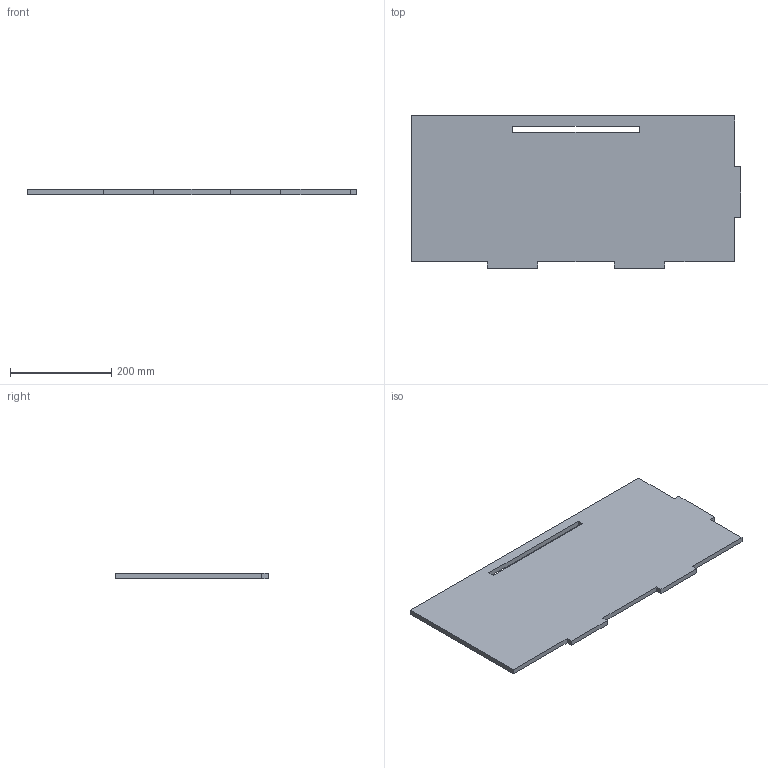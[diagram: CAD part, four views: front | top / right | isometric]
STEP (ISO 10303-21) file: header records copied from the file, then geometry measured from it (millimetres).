
FILE_DESCRIPTION (( 'STEP AP214' ), '1' );
FILE_NAME ('Part9.STEP', '2024-10-17T16:10:04', ( '' ), ( '' ), 'SwSTEP 2.0', 'SolidWorks 2020', '' );
FILE_SCHEMA (( 'AUTOMOTIVE_DESIGN' ));
Length unit declared in the file: millimetre
Products named in the file (1): Part9
Bounding box: 650 x 300 x 10 mm (x, y, z)
Volume: 1843440 mm3; surface area: 393168 mm2
Topology: 1 solids, 1 shells, 22 faces, 60 edges, 40 vertices
Faces by surface type: plane 22
Entity records: 722 total; most frequent: CARTESIAN_POINT 123, ORIENTED_EDGE 120, DIRECTION 106, LINE 60, EDGE_CURVE 60, VECTOR 60, VERTEX_POINT 40, EDGE_LOOP 24
